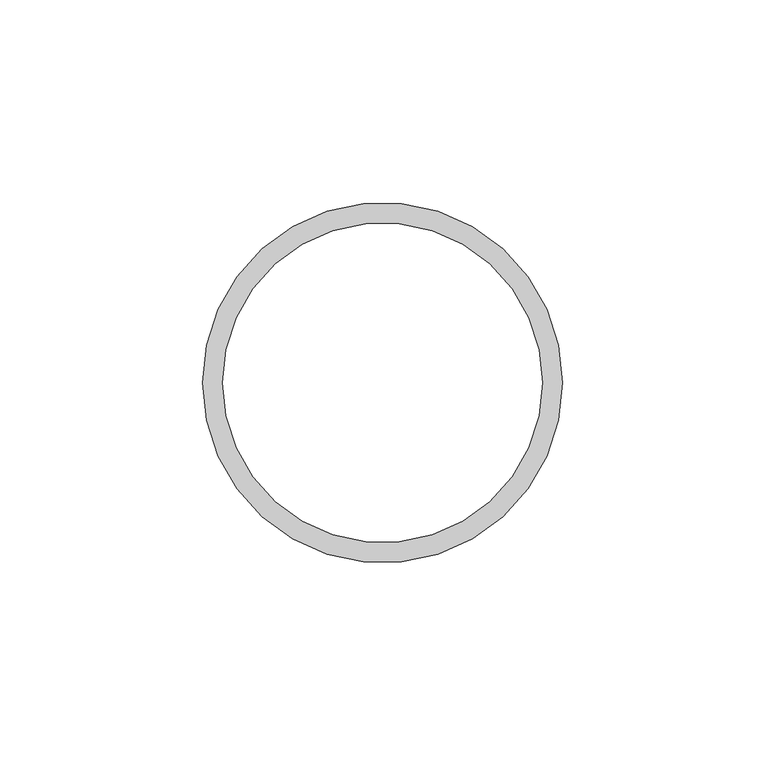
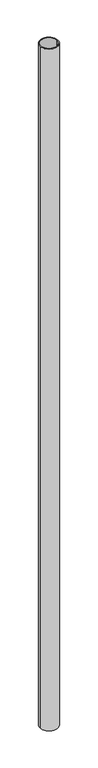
"""IFC4 building model written with IfcOpenShell, lengths in millimetres: column geometry, NLRS_28_SC_TLB_kolom buis_generiek_ISR : ø88.9x5 ."""

import ifcopenshell
import ifcopenshell.guid

model = None  # the IFC model being written
_history = None  # IfcOwnerHistory: only IFC2X3 demands one
_inside = {}  # id of a spatial element -> (the spatial element, [elements in it])
_under = {}  # id of a project, library or spatial element -> (it, [spatial elements below it])
_declared = {}  # id of a project -> (the project, [libraries it declares])
_typed = {}  # id of a type object -> (the type object, [elements of that type])
_made_of = {}  # id of a material, layer set ... -> (it, [elements and type objects made of it])


def new_model(schema):
    """Start an empty IFC model of exactly this schema.

    Asked for "IFC4X3", IfcOpenShell would pick the latest addendum, in which some entities
    have other attributes; the version numbers below select the first issue.
    IFC2X3 requires an IfcOwnerHistory on every rooted entity: one is made here for all.
    """
    global model, _history
    if schema == "IFC4X3":
        model = ifcopenshell.file(schema_version=(4, 3, 0, 0))
    else:
        model = ifcopenshell.file(schema=schema)
    _inside.clear()
    _under.clear()
    _declared.clear()
    _typed.clear()
    _made_of.clear()
    _history = None
    if model.schema == "IFC2X3":
        org = make("IfcOrganization", Name="unknown")
        user = make(
            "IfcPersonAndOrganization",
            ThePerson=make("IfcPerson", FamilyName="unknown"),
            TheOrganization=org,
        )
        app = make(
            "IfcApplication",
            ApplicationDeveloper=org,
            Version="unknown",
            ApplicationFullName="unknown",
            ApplicationIdentifier="unknown",
        )
        _history = make(
            "IfcOwnerHistory",
            OwningUser=user,
            OwningApplication=app,
            ChangeAction="ADDED",
            CreationDate=0,
        )
    return model


def make(cls, **values):
    """One entity of the class cls with the attributes given. An attribute that is None is left unset."""
    return model.create_entity(
        cls, **{name: value for name, value in values.items() if value is not None}
    )


def rooted(cls, **values):
    """An entity with a GlobalId (a new one), such as an element, a storey or a relation."""
    return make(cls, GlobalId=ifcopenshell.guid.new(), OwnerHistory=_history, **values)


def si_unit(unit_type, name, prefix=None):
    """IfcSIUnit, for example si_unit("LENGTHUNIT", "METRE", prefix="MILLI")."""
    return make("IfcSIUnit", UnitType=unit_type, Prefix=prefix, Name=name)


def assignment(units):
    """IfcUnitAssignment: the units of a project."""
    return None if units is None else make("IfcUnitAssignment", Units=units)


def point(xyz):
    """IfcCartesianPoint."""
    return None if xyz is None else make("IfcCartesianPoint", Coordinates=xyz)


def direction(xyz):
    """IfcDirection."""
    return None if xyz is None else make("IfcDirection", DirectionRatios=xyz)


def frame(location, z_axis=None, x_axis=None):
    """IfcAxis2Placement3D, a coordinate frame: its origin and axes. An axis left out is left unset."""
    return make(
        "IfcAxis2Placement3D",
        Location=point(location),
        Axis=direction(z_axis),
        RefDirection=direction(x_axis),
    )


def frame_2d(location, x_axis=None):
    """IfcAxis2Placement2D, a coordinate frame in the plane: its origin and x axis."""
    return make(
        "IfcAxis2Placement2D", Location=point(location), RefDirection=direction(x_axis)
    )


def origin():
    """The frame at (0, 0, 0) with its axes left unset."""
    return frame((0.0, 0.0, 0.0))


def origin_2d():
    """The frame at (0, 0) in the plane with its x axis left unset."""
    return frame_2d((0.0, 0.0))


def place(relative_to, where):
    """IfcLocalPlacement: puts the frame where relative to a parent placement (None: the world)."""
    return make(
        "IfcLocalPlacement", PlacementRelTo=relative_to, RelativePlacement=where
    )


def context(
    kind, dimensions, precision=None, world=None, true_north=None, identifier=None
):
    """IfcGeometricRepresentationContext, for example the 3D "Model" context."""
    return make(
        "IfcGeometricRepresentationContext",
        ContextIdentifier=identifier,
        ContextType=kind,
        CoordinateSpaceDimension=dimensions,
        Precision=precision,
        WorldCoordinateSystem=world,
        TrueNorth=true_north,
    )


def project(units=None, contexts=None):
    """IfcProject with its units and contexts."""
    return rooted(
        "IfcProject",
        Name="project",
        RepresentationContexts=contexts,
        UnitsInContext=assignment(units),
    )


def spatial(cls, under=None, at=None, **own):
    """A site, building, storey or space (cls), placed at a placement, below another one or the project."""
    s = rooted(cls, ObjectPlacement=at, **own)
    if under is not None:
        _under.setdefault(under.id(), (under, []))[1].append(s)
    return s


def circle_curve(where, radius):
    """IfcCircle in the frame where."""
    return make("IfcCircle", Position=where, Radius=radius)


def trimmed(basis, trim1, trim2, sense, master):
    """IfcTrimmedCurve: the piece of a basis curve between two trims."""
    return make(
        "IfcTrimmedCurve",
        BasisCurve=basis,
        Trim1=trim1,
        Trim2=trim2,
        SenseAgreement=sense,
        MasterRepresentation=master,
    )


def segment(curve, same_sense, transition):
    """IfcCompositeCurveSegment."""
    return make(
        "IfcCompositeCurveSegment",
        Transition=transition,
        SameSense=same_sense,
        ParentCurve=curve,
    )


def composite_curve(segments, self_intersect=None):
    """IfcCompositeCurve: segments joined end to end."""
    return make("IfcCompositeCurve", Segments=segments, SelfIntersect=self_intersect)


def outline(outer, holes=None, kind="AREA"):
    """IfcArbitraryClosedProfileDef: a profile drawn as a closed curve; with holes, ...WithVoids."""
    if holes is None:
        return make("IfcArbitraryClosedProfileDef", ProfileType=kind, OuterCurve=outer)
    return make(
        "IfcArbitraryProfileDefWithVoids",
        ProfileType=kind,
        OuterCurve=outer,
        InnerCurves=holes,
    )


def extrude(swept, where, along, depth):
    """IfcExtrudedAreaSolid: the profile swept, set in the frame where, extruded along a direction by depth."""
    return make(
        "IfcExtrudedAreaSolid",
        SweptArea=swept,
        Position=where,
        ExtrudedDirection=direction(along),
        Depth=depth,
    )


def shape(context_of_items, identifier, shape_type, items):
    """IfcShapeRepresentation: the items that make up one representation, for example the "Body"."""
    return make(
        "IfcShapeRepresentation",
        ContextOfItems=context_of_items,
        RepresentationIdentifier=identifier,
        RepresentationType=shape_type,
        Items=items,
    )


def source(mapping_origin, context_of_items, identifier, shape_type, items):
    """IfcRepresentationMap: a shape defined once, which mapped items show again and again."""
    return make(
        "IfcRepresentationMap",
        MappingOrigin=mapping_origin,
        MappedRepresentation=shape(context_of_items, identifier, shape_type, items),
    )


def transform(
    local_origin,
    x_axis=None,
    y_axis=None,
    z_axis=None,
    scale=None,
    scale2=None,
    scale3=None,
    uniform=True,
):
    """IfcCartesianTransformationOperator3D, or its non-uniform kind. x_axis, y_axis, z_axis: its Axis1, 2, 3."""
    if uniform:
        return make(
            "IfcCartesianTransformationOperator3D",
            Axis1=direction(x_axis),
            Axis2=direction(y_axis),
            LocalOrigin=point(local_origin),
            Scale=scale,
            Axis3=direction(z_axis),
        )
    return make(
        "IfcCartesianTransformationOperator3DnonUniform",
        Axis1=direction(x_axis),
        Axis2=direction(y_axis),
        LocalOrigin=point(local_origin),
        Scale=scale,
        Axis3=direction(z_axis),
        Scale2=scale2,
        Scale3=scale3,
    )


def mapped(mapping_source, mapping_target):
    """IfcMappedItem: shows the shape of a source again, moved by a transform."""
    return make(
        "IfcMappedItem", MappingSource=mapping_source, MappingTarget=mapping_target
    )


def made_of(thing, what):
    """Note that an element or type object is made of a material, layer set ...; save() writes the relation."""
    if what is not None:
        _made_of.setdefault(what.id(), (what, []))[1].append(thing)
    return thing


def element(
    cls,
    number,
    at=None,
    inside=None,
    cuts=None,
    type_object=None,
    material=None,
    context=None,
    identifier="Body",
    shape_type=None,
    held_by="IfcProductDefinitionShape",
    body=None,
    shapes=None,
    **own,
):
    """One element of the class cls, such as IfcWall. Its Tag is "e" and its number.

    at: its placement. inside: the storey or other place that contains it. cuts: it is an
    opening in that element (IfcRelVoidsElement). A single representation is given by context,
    identifier, shape_type and body (its items); several are given by shapes. held_by: the class
    of the entity that holds the representations. save() writes the other relations.
    """
    e = rooted(cls, Tag="e%d" % number, ObjectPlacement=at, **own)
    if body is not None:
        shapes = [shape(context, identifier, shape_type, body)]
    if shapes is not None:
        e.Representation = make(held_by, Representations=shapes)
    if inside is not None:
        _inside.setdefault(inside.id(), (inside, []))[1].append(e)
    if cuts is not None:
        rooted(
            "IfcRelVoidsElement", RelatingBuildingElement=cuts, RelatedOpeningElement=e
        )
    if type_object is not None:
        _typed.setdefault(type_object.id(), (type_object, []))[1].append(e)
    return made_of(e, material)


def aggregate(whole, parts):
    """IfcRelAggregates: a whole, such as a stair, and the parts it consists of."""
    return rooted("IfcRelAggregates", RelatingObject=whole, RelatedObjects=parts)


def save(model, path):
    """Write the relations noted so far, then the file.

    IfcRelAggregates (storeys below a building ...), IfcRelContainedInSpatialStructure (elements
    in a storey), IfcRelDefinesByType, IfcRelAssociatesMaterial and IfcRelDeclares: one each for
    every whole, place, type object, material and project.
    """
    for whole, parts in _under.values():
        aggregate(whole, parts)
    for where, things in _inside.values():
        rooted(
            "IfcRelContainedInSpatialStructure",
            RelatedElements=things,
            RelatingStructure=where,
        )
    for kind, things in _typed.values():
        rooted("IfcRelDefinesByType", RelatedObjects=things, RelatingType=kind)
    for what, things in _made_of.values():
        rooted("IfcRelAssociatesMaterial", RelatedObjects=things, RelatingMaterial=what)
    for by, libraries in _declared.values():
        rooted("IfcRelDeclares", RelatingContext=by, RelatedDefinitions=libraries)
    model.write(path)


def column_ca0ee623(model_context):
    return source(origin(), model_context, "Body", "SweptSolid", [
        extrude(outline(composite_curve([segment(trimmed(circle_curve(origin_2d(), 44.45), [point((44.45, 0.0))], [point((-44.45, 0.0))], False, "CARTESIAN"), True, "CONTINUOUS"), segment(trimmed(circle_curve(origin_2d(), 44.45), [point((-44.45, 0.0))], [point((44.45, 0.0))], False, "CARTESIAN"), True, "CONTINUOUS")], self_intersect=False), holes=[composite_curve([segment(trimmed(circle_curve(origin_2d(), 39.45), [point((39.45, 0.0))], [point((-39.45, 0.0))], True, "CARTESIAN"), True, "CONTINUOUS"), segment(trimmed(circle_curve(origin_2d(), 39.45), [point((-39.45, 0.0))], [point((39.45, 0.0))], True, "CARTESIAN"), True, "CONTINUOUS")], self_intersect=False)]), frame((0.0, 0.0, 3500.0), z_axis=(0.0, 0.0, 1.0), x_axis=(1.0, 0.0, 0.0)), (0.0, 0.0, 1.0), 3550.0),
    ])


if __name__ == "__main__":
    model = new_model("IFC4")
    model_context = context("Model", 3, world=origin())
    ifc_project = project(units=[si_unit("LENGTHUNIT", "METRE", prefix="MILLI")], contexts=[model_context])
    site = spatial("IfcSite", under=ifc_project)
    building = spatial("IfcBuilding", under=site)
    placement = place(None, origin())
    column_shape = column_ca0ee623(model_context)
    element("IfcColumn", 1, ObjectType="NLRS_28_SC_TLB_kolom buis_generiek_ISR : ø88.9x5 ", at=placement, inside=building, context=model_context, shape_type="MappedRepresentation", body=[
        mapped(column_shape, transform((0.0, 0.0, 0.0), x_axis=(1.0, 0.0, 0.0), y_axis=(0.0, 1.0, 0.0), z_axis=(0.0, 0.0, 1.0))),
    ])
    save(model, "model.ifc")
